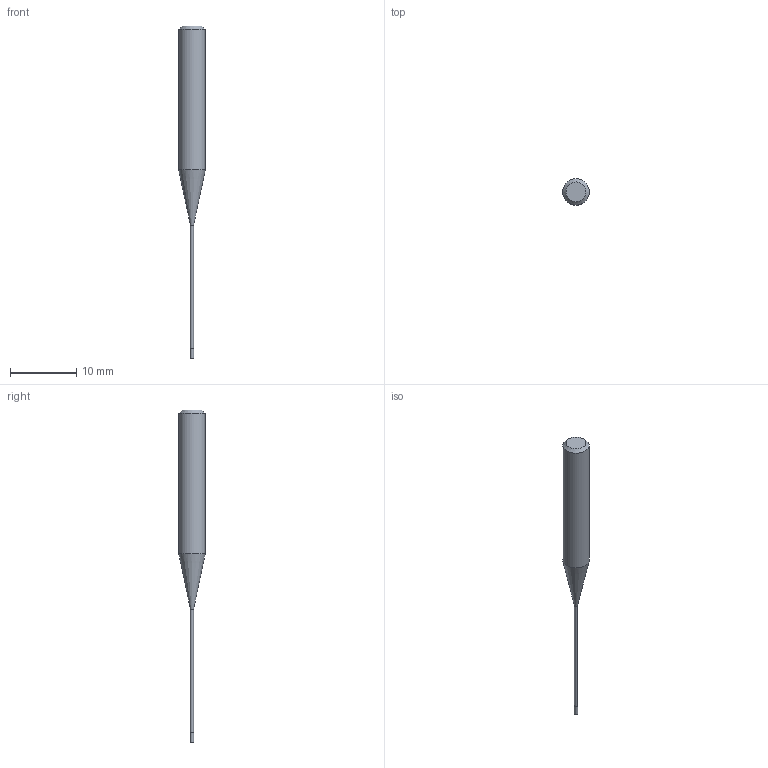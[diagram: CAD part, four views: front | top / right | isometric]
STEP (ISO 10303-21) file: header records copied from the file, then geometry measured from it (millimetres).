
FILE_DESCRIPTION((''),'2;1');
FILE_NAME('C:\Users\nsx150\Desktop\RSE230_20210427\01-00644-00520 RSE230 D0_5X1_5X20.step','2021-05-07T14:52:52',(''),(''),'STEP Write','Mastercam 2021 ... CNC Software, Inc.','');
FILE_SCHEMA(('AUTOMOTIVE_DESIGN'));
Length unit declared in the file: millimetre
Products named in the file (1): None
Bounding box: 4 x 4 x 50 mm (x, y, z)
Volume: 313.6 mm3; surface area: 370.2 mm2
Topology: 2 solids, 2 shells, 9 faces, 12 edges, 7 vertices
Faces by surface type: plane 4, cylinder 3, cone 2
Full cylindrical faces by diameter (mm): 0.46 x1, 0.5 x1, 4 x1
Entity records: 211 total; most frequent: DIRECTION 36, CARTESIAN_POINT 25, AXIS2_PLACEMENT_3D 18, ORIENTED_EDGE 14, EDGE_LOOP 14, STYLED_ITEM 12, ADVANCED_FACE 9, FACE_BOUND 8
